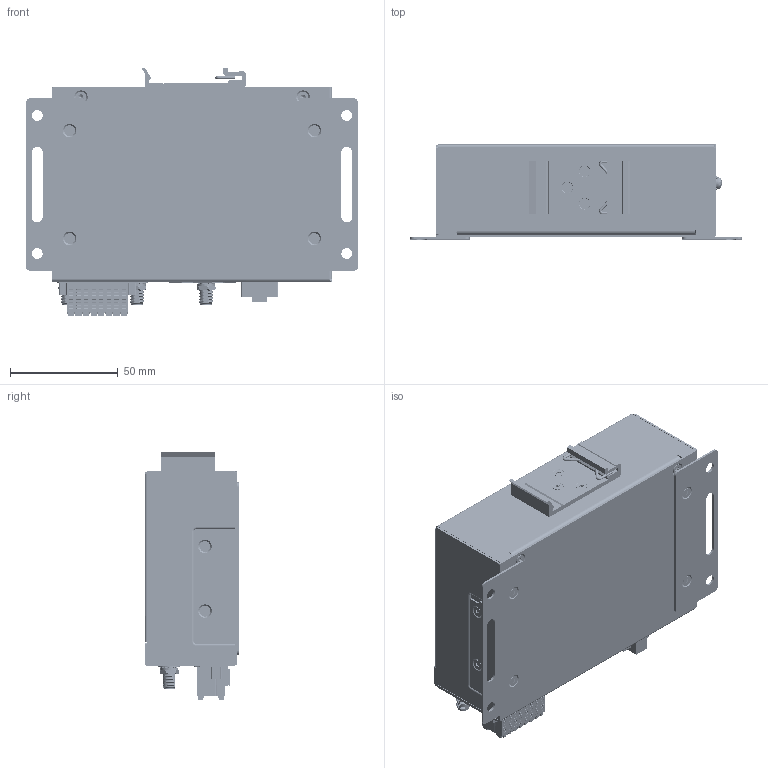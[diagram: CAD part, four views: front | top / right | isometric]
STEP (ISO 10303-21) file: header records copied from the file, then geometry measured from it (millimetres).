
FILE_DESCRIPTION (( 'STEP AP214' ), '1' );
FILE_NAME ('ICR-4233.STEP', '2024-11-05T08:59:49', ( '' ), ( '' ), 'SwSTEP 2.0', 'SolidWorks 2024', '' );
FILE_SCHEMA (( 'AUTOMOTIVE_DESIGN' ));
Length unit declared in the file: millimetre
Products named in the file (47): SCR_ZC_M3_L6_PH_PW; Battery_SMT_holder_Keystone-PN3000; Radial_THT_Capacitor; POST_D4,5xL5; AlluminiumCooler; RJ45_2x_Connector; Lightpipe_4P; PCB_ICR-4(1,2)xx; SCR_BK_M3_L4_TX8_FL_SCR; USB_3_0_type_A; Label_42W0C2G1; PCI_Female_Connector_67P; CDS_M_H5_W7,3_CHM3; Pin_header_6x2P; ANT_PG_L150_SMA_I; DIN_25_AL; Dip_Switch_2_positon; CoolingPadCellular_ICR4(1,2)33; chassisWallMount; Label_SIM_SD_IO_configuration_SIM_IO; Micro_SD_card_holder_part_1; SIM_holder; CON_WR2; ICR-4233; B-ICR41(2)xx-4_B-ICR42xxSS-4; SCR_BK_M3_L5_PH_FL_TW_GLUE; IO_Header_16P; ChassisTop; CON-ICR28-16; POST_D6xL4; FM101-EAU_FM101-EAU; Bottom_Base_for_ICR-4(1,2)xx; Chassis_package-ICR-4(1,2)xx; BAT_CR1225; SCR_BK_M3_L5_PH_FL_TW; Pluggable_Term_Blk_2P; ChassisSimCover; Case_for_ICR-4(1,2)xx; PCI_Female_Connector_52P; ThermalTape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
Assembly tree (68 placements, depth 5):
  ICR-4233
    Chassis_package-ICR-4(1,2)xx
      Case_for_ICR-4(1,2)xx
        Bottom_Base_for_ICR-4(1,2)xx
          ChassisBottom
          CDS_M_H5_W7,3_CHM3  x4
        ChassisTop
      ChassisSimCover
      ThermalTape
      chassisWallMount  x2
      AlluminiumCooler
    B-ICR41(2)xx-4_B-ICR42xxSS-4
      PCB_ICR-4(1,2)xx
      PCI_Female_Connector_52P
      POST_D4,5xL5
      Battery_SMT_holder_Keystone-PN3000
      Lightpipe_4P  x2
      RJ45_2x_Connector
      USB_3_0_type_A
      IO_Header_16P
      PCI_Female_Connector_67P
      SIM_holder  x2
      Tact_Switch_right_angle
      Radial_THT_Capacitor
      Pluggable_Term_Blk_2P
      Micro_SD_card_holder
        Micro_SD_card_holder_part_1
        Micro_SD_card_holder_part_2
      POST_D6xL4
      Dip_Switch_2_positon
      Pin_header_6x2P
    CON_WR2
    CON-ICR28-16
    BAT_CR1225
    DIN_25_AL
    Label_SIM_SD_IO_configuration_SIM_IO
    Label_42W0C2G1
    Thermal_pad_46x30
    CoolingPadCellular
    CoolingPadCellular_ICR4(1,2)33
    FM101-EAU_FM101-EAU
    ANT_PG_L150_SMA_I  x3
    SCR_BK_M3_L4_TX8_FL_SCR  x4
    SCR_BK_M3_L5_PH_FL_TW_GLUE  x7
    SCR_BK_M3_L5_PH_FL_TW  x2
    SCR_ZC_M3_L6_PH_PW_2
    SCR_ZC_M3_L6_PH_PW  x5
Bounding box: 153.9 x 44 x 115.39 mm (x, y, z)
Volume: 104499.3 mm3; surface area: 203477 mm2
Topology: 84 solids, 125 shells, 17676 faces, 48441 edges, 31685 vertices
Faces by surface type: plane 9995, cylinder 3697, bspline 3343, cone 326, torus 225, sphere 90
Entity records: 628169 total; most frequent: CARTESIAN_POINT 202505, ORIENTED_EDGE 86107, DIRECTION 64843, EDGE_CURVE 43238, VERTEX_POINT 28280, VECTOR 27215, LINE 27215, AXIS2_PLACEMENT_3D 18814
